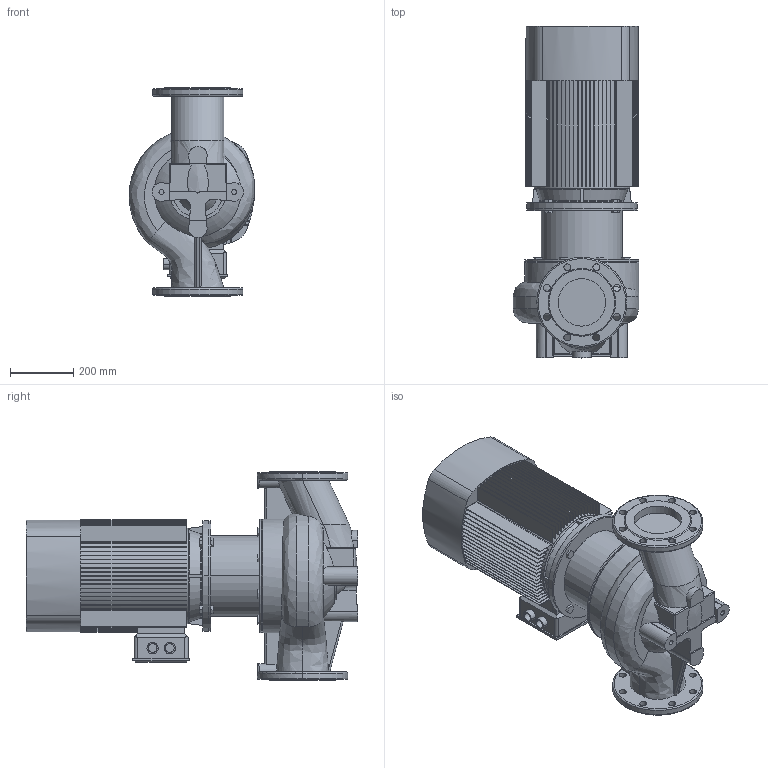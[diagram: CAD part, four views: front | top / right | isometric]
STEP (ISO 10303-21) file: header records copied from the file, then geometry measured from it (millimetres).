
FILE_DESCRIPTION (( 'STEP AP203' ), '1' );
FILE_NAME ('TD150-22G_4.STEP', '2022-05-02T17:24:24', ( '' ), ( '' ), 'SwSTEP 2.0', 'SolidWorks 2019', '' );
FILE_SCHEMA (( 'CONFIG_CONTROL_DESIGN' ));
Length unit declared in the file: millimetre
Products named in the file (4): Pr_ch 150_TD150-22G_4; Fon_150_TD150-22G_4; ED_B5_YE2-180M-4 (18.5); TD150-22G_4
Assembly tree (3 placements, depth 2):
  TD150-22G_4
    Pr_ch 150_TD150-22G_4
    Fon_150_TD150-22G_4
    ED_B5_YE2-180M-4 (18.5)
Bounding box: 397.48 x 1049 x 660 mm (x, y, z)
Volume: 88066865.8 mm3; surface area: 3913771.5 mm2
Topology: 5 solids, 9 shells, 742 faces, 2026 edges, 1338 vertices
Faces by surface type: plane 504, cylinder 158, torus 35, bspline 26, cone 17, sphere 2
Entity records: 31486 total; most frequent: CARTESIAN_POINT 12027, ORIENTED_EDGE 4044, DIRECTION 3946, EDGE_CURVE 2022, AXIS2_PLACEMENT_3D 1376, VERTEX_POINT 1338, VECTOR 1194, LINE 1194
